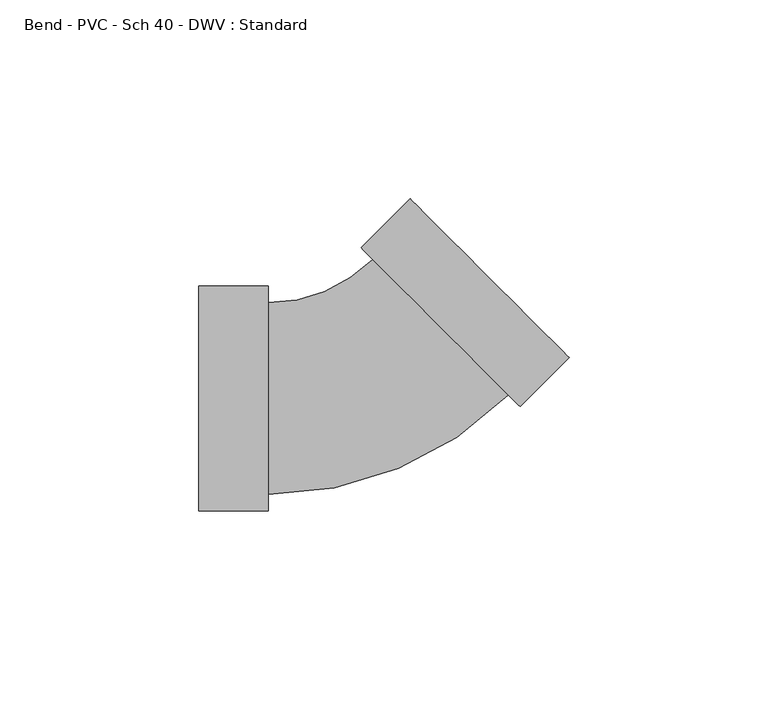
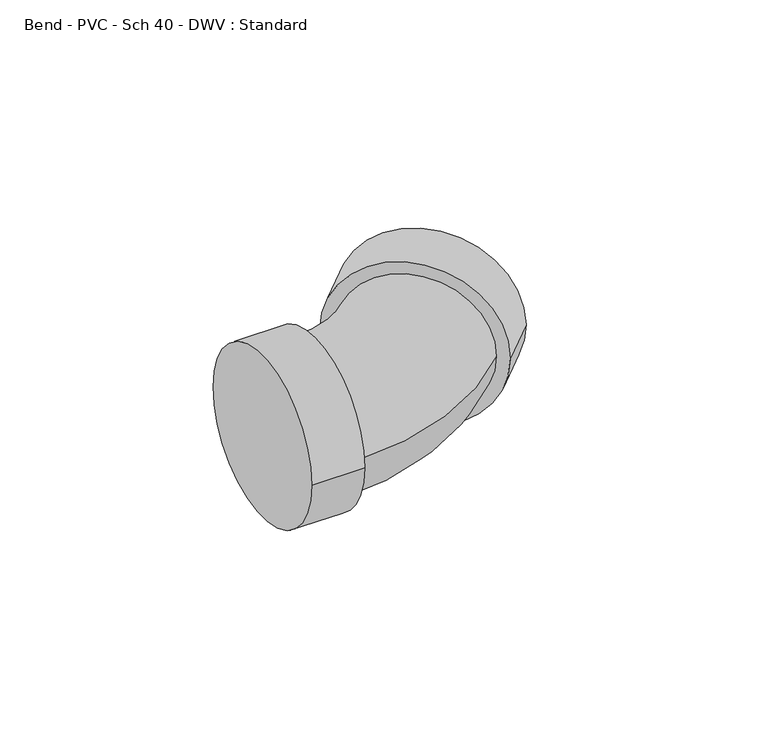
"""IFC4 building model written with IfcOpenShell, lengths in millimetres: pipe fitting geometry, Bend - PVC - Sch 40 - DWV : Standard."""

from ifc_helpers import new_model, si_unit, point, frame, origin, place, context, project, spatial, circle_curve, ellipse_curve, trimmed, source, transform, mapped, element, save
from ifc_brep_helpers import plane_surface, cylinder_surface, revolved_surface, advanced_brep


def bend_pvc_sch_40_dwv_standard_6712e14b(model_context):
    return source(origin(), model_context, "Body", "AdvancedBrep", [
        advanced_brep(
        [(-42.8498, -28.2829, 0.0), (-42.8498, 28.2829, 0.0), (-25.4, -28.2829, 0.0), (-25.4, 28.2829, 0.0), (-25.4, -24.13, 0.0), (-25.4, 24.13, 0.0), (0.8961257, 35.0230475, 0.0), (35.0229501, 0.8999255, 0.0), (37.9596532, -2.0364589, 0.0), (-2.0405774, 37.959432, 0.0), (50.2978557, 10.3030823, 0.0), (10.2976252, 50.2989732, 0.0)],
        [
            (0, 1, circle_curve(frame((-42.8498, 0.0, 0.0), z_axis=(-1.0, 0.0, 0.0), x_axis=(0.0, 1.0, 0.0)), 28.2829)),
            (1, 0, circle_curve(frame((-42.8498, 0.0, 0.0), z_axis=(-1.0, 0.0, 0.0), x_axis=(0.0, 1.0, 0.0)), 28.2829)),
            (2, 3, circle_curve(frame((-25.4, 0.0, 0.0), z_axis=(1.0, 0.0, 0.0), x_axis=(0.0, 1.0, 0.0)), 28.2829)),
            (3, 2, circle_curve(frame((-25.4, 0.0, 0.0), z_axis=(1.0, 0.0, 0.0), x_axis=(0.0, 1.0, 0.0)), 28.2829)),
            (4, 5, circle_curve(frame((-25.4, 0.0, 0.0), z_axis=(-1.0, 0.0, 0.0), x_axis=(0.0, 1.0, 0.0)), 24.13)),
            (5, 4, circle_curve(frame((-25.4, 0.0, 0.0), z_axis=(-1.0, 0.0, 0.0), x_axis=(0.0, 1.0, 0.0)), 24.13)),
            (0, 2),
            (3, 1),
            (6, 5, circle_curve(frame((-25.4, 61.3163204, 0.0), z_axis=(0.0, 0.0, -1.0), x_axis=(0.0, -1.0, 0.0)), 37.1863204)),
            (4, 7, circle_curve(frame((-25.4, 61.3163204, 0.0), z_axis=(0.0, 0.0, 1.0), x_axis=(0.0, -1.0, 0.0)), 85.4463204)),
            (7, 6, circle_curve(frame((17.9595379, 17.9614865, 0.0), z_axis=(-0.7070684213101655, -0.7071451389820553, 0.0), x_axis=(-0.7071451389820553, 0.7070684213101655, 0.0)), 24.13)),
            (6, 7, circle_curve(frame((17.9595379, 17.9614865, 0.0), z_axis=(-0.7070684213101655, -0.7071451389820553, 0.0), x_axis=(-0.7071451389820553, 0.7070684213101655, 0.0)), 24.13)),
            (8, 9, circle_curve(frame((17.9595379, 17.9614865, 0.0), z_axis=(-0.7070684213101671, -0.7071451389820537, 0.0), x_axis=(-0.7071451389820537, 0.7070684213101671, 0.0)), 28.2829)),
            (9, 8, circle_curve(frame((17.9595379, 17.9614865, 0.0), z_axis=(-0.7070684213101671, -0.7071451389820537, 0.0), x_axis=(-0.7071451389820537, 0.7070684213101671, 0.0)), 28.2829)),
            (10, 11, circle_curve(frame((30.2977404, 30.3010278, 0.0), z_axis=(0.7070684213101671, 0.7071451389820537, 0.0), x_axis=(-0.7071451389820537, 0.7070684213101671, 0.0)), 28.2829)),
            (11, 10, circle_curve(frame((30.2977404, 30.3010278, 0.0), z_axis=(0.7070684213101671, 0.7071451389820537, 0.0), x_axis=(-0.7071451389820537, 0.7070684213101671, 0.0)), 28.2829)),
            (8, 10),
            (11, 9),
        ],
        [
            plane_surface(frame((-42.8498, 0.0, 0.0), z_axis=(-1.0, 0.0, 0.0), x_axis=(0.0, 0.0, 1.0))),
            plane_surface(frame((-25.4, 0.0, 0.0), z_axis=(1.0, 0.0, 0.0), x_axis=(0.0, 0.0, 1.0))),
            cylinder_surface(frame((-42.8498, 0.0, 0.0), z_axis=(-1.0, 0.0, 0.0), x_axis=(0.0, 1.0, 0.0)), 28.2829),
            revolved_surface(trimmed(ellipse_curve(frame((-25.4, 0.0, 0.0), z_axis=(-1.0, 0.0, 0.0), x_axis=(0.0, 1.0, 0.0)), 24.13, 24.13), [point((-25.4, -24.13, 0.0))], [point((-25.4, 24.13, 0.0))], True, "CARTESIAN"), (-25.4, 61.3163204, 0.0), (0.0, 0.0, 1.0)),
            revolved_surface(trimmed(ellipse_curve(frame((-25.4, 0.0, 0.0), z_axis=(-1.0, 0.0, 0.0), x_axis=(0.0, 1.0, 0.0)), 24.13, 24.13), [point((-25.4, 24.13, 0.0))], [point((-25.4, -24.13, 0.0))], True, "CARTESIAN"), (-25.4, 61.3163204, 0.0), (0.0, 0.0, 1.0)),
            plane_surface(frame((17.9595379, 17.9614865, 0.0), z_axis=(-0.7070684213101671, -0.7071451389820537, 0.0), x_axis=(0.0, 0.0, 1.0))),
            plane_surface(frame((30.2977404, 30.3010278, 0.0), z_axis=(0.7070684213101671, 0.7071451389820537, 0.0), x_axis=(0.0, 0.0, 1.0))),
            cylinder_surface(frame((17.9595379, 17.9614865, 0.0), z_axis=(-0.7070684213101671, -0.7071451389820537, 0.0), x_axis=(-0.7071451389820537, 0.7070684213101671, 0.0)), 28.2829),
        ],
        [
            (0, [[1, 2]]),
            (1, [[3, 4], [5, 6]]),
            (2, [[-1, 7, -4, 8]]),
            (2, [[-2, -8, -3, -7]]),
            (3, [[9, -5, 10, 11]]),
            (4, [[-9, 12, -10, -6]]),
            (5, [[13, 14], [-11, -12]]),
            (6, [[15, 16]]),
            (7, [[-13, 17, -16, 18]]),
            (7, [[-14, -18, -15, -17]]),
        ],
    ),
    ])


if __name__ == "__main__":
    model = new_model("IFC4")
    model_context = context("Model", 3, world=origin())
    ifc_project = project(units=[si_unit("LENGTHUNIT", "METRE", prefix="MILLI")], contexts=[model_context])
    site = spatial("IfcSite", under=ifc_project)
    building = spatial("IfcBuilding", under=site)
    placement = place(None, origin())
    bend_pvc_sch_40_dwv_standard_shape = bend_pvc_sch_40_dwv_standard_6712e14b(model_context)
    element("IfcPipeFitting", 1, ObjectType="Bend - PVC - Sch 40 - DWV : Standard", at=placement, inside=building, context=model_context, shape_type="MappedRepresentation", body=[
        mapped(bend_pvc_sch_40_dwv_standard_shape, transform((0.0, 0.0, 0.0), x_axis=(1.0, 0.0, 0.0), y_axis=(0.0, 1.0, 0.0), z_axis=(0.0, 0.0, 1.0))),
    ])
    save(model, "model.ifc")
